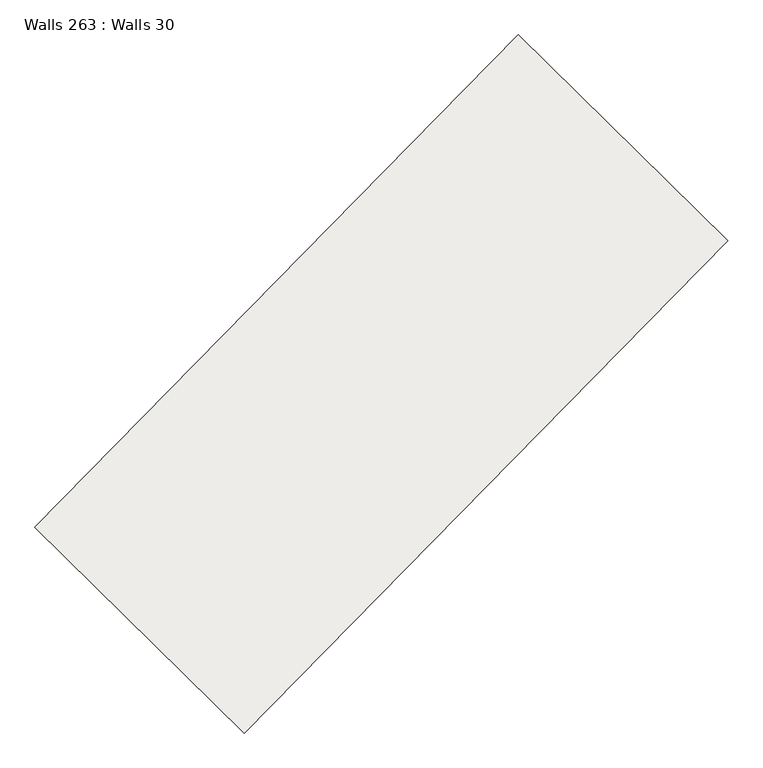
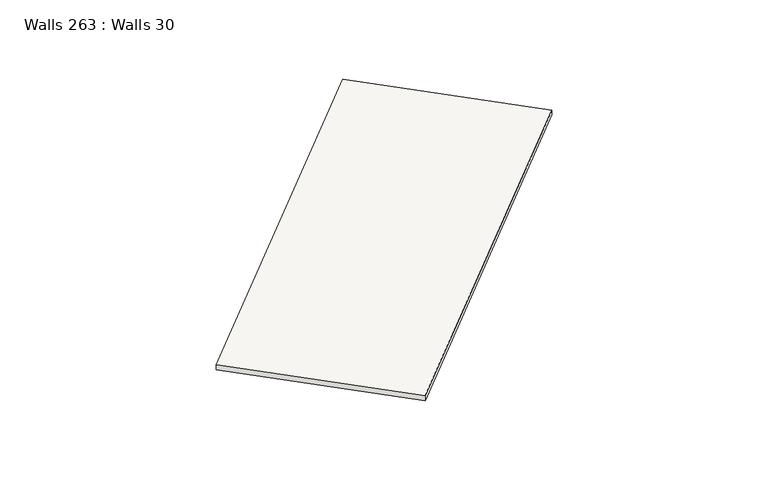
"""IFC4 building model written with IfcOpenShell, lengths in millimetres: slab geometry, Walls 263 : Walls 30."""

import ifcopenshell
import ifcopenshell.guid

model = None  # the IFC model being written
_history = None  # IfcOwnerHistory: only IFC2X3 demands one
_inside = {}  # id of a spatial element -> (the spatial element, [elements in it])
_under = {}  # id of a project, library or spatial element -> (it, [spatial elements below it])
_declared = {}  # id of a project -> (the project, [libraries it declares])
_typed = {}  # id of a type object -> (the type object, [elements of that type])
_made_of = {}  # id of a material, layer set ... -> (it, [elements and type objects made of it])


def new_model(schema):
    """Start an empty IFC model of exactly this schema.

    Asked for "IFC4X3", IfcOpenShell would pick the latest addendum, in which some entities
    have other attributes; the version numbers below select the first issue.
    IFC2X3 requires an IfcOwnerHistory on every rooted entity: one is made here for all.
    """
    global model, _history
    if schema == "IFC4X3":
        model = ifcopenshell.file(schema_version=(4, 3, 0, 0))
    else:
        model = ifcopenshell.file(schema=schema)
    _inside.clear()
    _under.clear()
    _declared.clear()
    _typed.clear()
    _made_of.clear()
    _history = None
    if model.schema == "IFC2X3":
        org = make("IfcOrganization", Name="unknown")
        user = make(
            "IfcPersonAndOrganization",
            ThePerson=make("IfcPerson", FamilyName="unknown"),
            TheOrganization=org,
        )
        app = make(
            "IfcApplication",
            ApplicationDeveloper=org,
            Version="unknown",
            ApplicationFullName="unknown",
            ApplicationIdentifier="unknown",
        )
        _history = make(
            "IfcOwnerHistory",
            OwningUser=user,
            OwningApplication=app,
            ChangeAction="ADDED",
            CreationDate=0,
        )
    return model


def make(cls, **values):
    """One entity of the class cls with the attributes given. An attribute that is None is left unset."""
    return model.create_entity(
        cls, **{name: value for name, value in values.items() if value is not None}
    )


def rooted(cls, **values):
    """An entity with a GlobalId (a new one), such as an element, a storey or a relation."""
    return make(cls, GlobalId=ifcopenshell.guid.new(), OwnerHistory=_history, **values)


def si_unit(unit_type, name, prefix=None):
    """IfcSIUnit, for example si_unit("LENGTHUNIT", "METRE", prefix="MILLI")."""
    return make("IfcSIUnit", UnitType=unit_type, Prefix=prefix, Name=name)


def assignment(units):
    """IfcUnitAssignment: the units of a project."""
    return None if units is None else make("IfcUnitAssignment", Units=units)


def point(xyz):
    """IfcCartesianPoint."""
    return None if xyz is None else make("IfcCartesianPoint", Coordinates=xyz)


def direction(xyz):
    """IfcDirection."""
    return None if xyz is None else make("IfcDirection", DirectionRatios=xyz)


def frame(location, z_axis=None, x_axis=None):
    """IfcAxis2Placement3D, a coordinate frame: its origin and axes. An axis left out is left unset."""
    return make(
        "IfcAxis2Placement3D",
        Location=point(location),
        Axis=direction(z_axis),
        RefDirection=direction(x_axis),
    )


def origin():
    """The frame at (0, 0, 0) with its axes left unset."""
    return frame((0.0, 0.0, 0.0))


def place(relative_to, where):
    """IfcLocalPlacement: puts the frame where relative to a parent placement (None: the world)."""
    return make(
        "IfcLocalPlacement", PlacementRelTo=relative_to, RelativePlacement=where
    )


def context(
    kind, dimensions, precision=None, world=None, true_north=None, identifier=None
):
    """IfcGeometricRepresentationContext, for example the 3D "Model" context."""
    return make(
        "IfcGeometricRepresentationContext",
        ContextIdentifier=identifier,
        ContextType=kind,
        CoordinateSpaceDimension=dimensions,
        Precision=precision,
        WorldCoordinateSystem=world,
        TrueNorth=true_north,
    )


def project(units=None, contexts=None):
    """IfcProject with its units and contexts."""
    return rooted(
        "IfcProject",
        Name="project",
        RepresentationContexts=contexts,
        UnitsInContext=assignment(units),
    )


def spatial(cls, under=None, at=None, **own):
    """A site, building, storey or space (cls), placed at a placement, below another one or the project."""
    s = rooted(cls, ObjectPlacement=at, **own)
    if under is not None:
        _under.setdefault(under.id(), (under, []))[1].append(s)
    return s


def polyline(points):
    """IfcPolyline through the points."""
    return make("IfcPolyline", Points=[point(p) for p in points])


def outline(outer, holes=None, kind="AREA"):
    """IfcArbitraryClosedProfileDef: a profile drawn as a closed curve; with holes, ...WithVoids."""
    if holes is None:
        return make("IfcArbitraryClosedProfileDef", ProfileType=kind, OuterCurve=outer)
    return make(
        "IfcArbitraryProfileDefWithVoids",
        ProfileType=kind,
        OuterCurve=outer,
        InnerCurves=holes,
    )


def extrude(swept, where, along, depth):
    """IfcExtrudedAreaSolid: the profile swept, set in the frame where, extruded along a direction by depth."""
    return make(
        "IfcExtrudedAreaSolid",
        SweptArea=swept,
        Position=where,
        ExtrudedDirection=direction(along),
        Depth=depth,
    )


def shape(context_of_items, identifier, shape_type, items):
    """IfcShapeRepresentation: the items that make up one representation, for example the "Body"."""
    return make(
        "IfcShapeRepresentation",
        ContextOfItems=context_of_items,
        RepresentationIdentifier=identifier,
        RepresentationType=shape_type,
        Items=items,
    )


def source(mapping_origin, context_of_items, identifier, shape_type, items):
    """IfcRepresentationMap: a shape defined once, which mapped items show again and again."""
    return make(
        "IfcRepresentationMap",
        MappingOrigin=mapping_origin,
        MappedRepresentation=shape(context_of_items, identifier, shape_type, items),
    )


def transform(
    local_origin,
    x_axis=None,
    y_axis=None,
    z_axis=None,
    scale=None,
    scale2=None,
    scale3=None,
    uniform=True,
):
    """IfcCartesianTransformationOperator3D, or its non-uniform kind. x_axis, y_axis, z_axis: its Axis1, 2, 3."""
    if uniform:
        return make(
            "IfcCartesianTransformationOperator3D",
            Axis1=direction(x_axis),
            Axis2=direction(y_axis),
            LocalOrigin=point(local_origin),
            Scale=scale,
            Axis3=direction(z_axis),
        )
    return make(
        "IfcCartesianTransformationOperator3DnonUniform",
        Axis1=direction(x_axis),
        Axis2=direction(y_axis),
        LocalOrigin=point(local_origin),
        Scale=scale,
        Axis3=direction(z_axis),
        Scale2=scale2,
        Scale3=scale3,
    )


def mapped(mapping_source, mapping_target):
    """IfcMappedItem: shows the shape of a source again, moved by a transform."""
    return make(
        "IfcMappedItem", MappingSource=mapping_source, MappingTarget=mapping_target
    )


def made_of(thing, what):
    """Note that an element or type object is made of a material, layer set ...; save() writes the relation."""
    if what is not None:
        _made_of.setdefault(what.id(), (what, []))[1].append(thing)
    return thing


def element(
    cls,
    number,
    at=None,
    inside=None,
    cuts=None,
    type_object=None,
    material=None,
    context=None,
    identifier="Body",
    shape_type=None,
    held_by="IfcProductDefinitionShape",
    body=None,
    shapes=None,
    **own,
):
    """One element of the class cls, such as IfcWall. Its Tag is "e" and its number.

    at: its placement. inside: the storey or other place that contains it. cuts: it is an
    opening in that element (IfcRelVoidsElement). A single representation is given by context,
    identifier, shape_type and body (its items); several are given by shapes. held_by: the class
    of the entity that holds the representations. save() writes the other relations.
    """
    e = rooted(cls, Tag="e%d" % number, ObjectPlacement=at, **own)
    if body is not None:
        shapes = [shape(context, identifier, shape_type, body)]
    if shapes is not None:
        e.Representation = make(held_by, Representations=shapes)
    if inside is not None:
        _inside.setdefault(inside.id(), (inside, []))[1].append(e)
    if cuts is not None:
        rooted(
            "IfcRelVoidsElement", RelatingBuildingElement=cuts, RelatedOpeningElement=e
        )
    if type_object is not None:
        _typed.setdefault(type_object.id(), (type_object, []))[1].append(e)
    return made_of(e, material)


def aggregate(whole, parts):
    """IfcRelAggregates: a whole, such as a stair, and the parts it consists of."""
    return rooted("IfcRelAggregates", RelatingObject=whole, RelatedObjects=parts)


def save(model, path):
    """Write the relations noted so far, then the file.

    IfcRelAggregates (storeys below a building ...), IfcRelContainedInSpatialStructure (elements
    in a storey), IfcRelDefinesByType, IfcRelAssociatesMaterial and IfcRelDeclares: one each for
    every whole, place, type object, material and project.
    """
    for whole, parts in _under.values():
        aggregate(whole, parts)
    for where, things in _inside.values():
        rooted(
            "IfcRelContainedInSpatialStructure",
            RelatedElements=things,
            RelatingStructure=where,
        )
    for kind, things in _typed.values():
        rooted("IfcRelDefinesByType", RelatedObjects=things, RelatingType=kind)
    for what, things in _made_of.values():
        rooted("IfcRelAssociatesMaterial", RelatedObjects=things, RelatingMaterial=what)
    for by, libraries in _declared.values():
        rooted("IfcRelDeclares", RelatingContext=by, RelatedDefinitions=libraries)
    model.write(path)


def walls_263_walls_30_551e9343(model_context):
    return source(origin(), model_context, "Body", "SweptSolid", [
        extrude(outline(polyline([(-50.0, 0.0), (50.0, 0.0), (-30.0, -8700.0000004), (-130.0, -8700.0000004), (-50.0, 0.0)])), frame((-201040.6065923, -364206.670881, 635120.0), z_axis=(-0.7136987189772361, 0.7004528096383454, 0.0), x_axis=(0.0, 0.0, 1.0)), (0.0, 0.0, 1.0), 3700.0),
    ])


if __name__ == "__main__":
    model = new_model("IFC4")
    model_context = context("Model", 3, world=origin())
    ifc_project = project(units=[si_unit("LENGTHUNIT", "METRE", prefix="MILLI")], contexts=[model_context])
    site = spatial("IfcSite", under=ifc_project)
    building = spatial("IfcBuilding", under=site)
    placement = place(None, origin())
    walls_263_walls_30_shape = walls_263_walls_30_551e9343(model_context)
    element("IfcSlab", 1, ObjectType="Walls 263 : Walls 30", at=placement, inside=building, context=model_context, shape_type="MappedRepresentation", body=[
        mapped(walls_263_walls_30_shape, transform((0.0, 0.0, 0.0), x_axis=(1.0, 0.0, 0.0), y_axis=(0.0, 1.0, 0.0), z_axis=(0.0, 0.0, 1.0))),
    ])
    save(model, "model.ifc")
